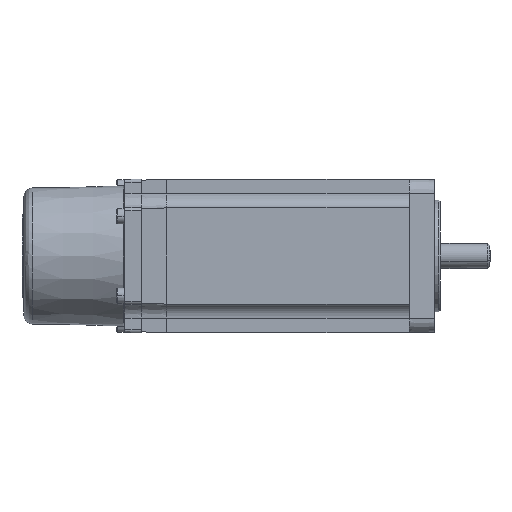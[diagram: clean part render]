
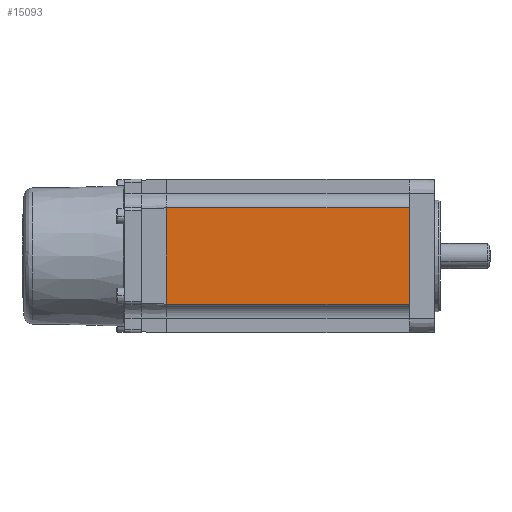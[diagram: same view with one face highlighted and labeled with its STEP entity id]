
A CAD part, front view. The second image highlights one B-rep face of the part: STEP entity #15093.
In plain terms, the highlighted planar face has unit normal (0, -1, 0) as drawn and (0, 1, 0) by its records, which use the part's own axes.
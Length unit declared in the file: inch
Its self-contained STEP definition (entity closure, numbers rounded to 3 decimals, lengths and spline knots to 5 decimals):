
#4738 = VERTEX_POINT ( 'NONE', #162156 ) ;
#7245 = VECTOR ( 'NONE', #147348, 39.37008 ) ;
#8697 = EDGE_CURVE ( 'NONE', #4738, #88647, #55848, .T. ) ;
#12446 = EDGE_LOOP ( 'NONE', ( #35174, #57296, #119959, #114343 ) ) ;
#14378 = DIRECTION ( 'NONE',  ( 0., -1., 0. ) ) ;
#15093 = ADVANCED_FACE ( 'NONE', ( #25220 ), #64618, .F. ) ;
#16913 = VERTEX_POINT ( 'NONE', #90573 ) ;
#25220 = FACE_OUTER_BOUND ( 'NONE', #12446, .T. ) ;
#28701 = CARTESIAN_POINT ( 'NONE',  ( 0.68007, 1.08268, -1.71654 ) ) ;
#35174 = ORIENTED_EDGE ( 'NONE', *, *, #47087, .F. ) ;
#47087 = EDGE_CURVE ( 'NONE', #16913, #4738, #133571, .T. ) ;
#50593 = DIRECTION ( 'NONE',  ( -1., 0., 0. ) ) ;
#55848 = LINE ( 'NONE', #147598, #122904 ) ;
#56537 = CARTESIAN_POINT ( 'NONE',  ( 0.68007, 1.08268, -1.71654 ) ) ;
#57296 = ORIENTED_EDGE ( 'NONE', *, *, #140866, .F. ) ;
#64618 = PLANE ( 'NONE',  #98411 ) ;
#71860 = CARTESIAN_POINT ( 'NONE',  ( -1.08268, 1.08268, -1.71654 ) ) ;
#72112 = DIRECTION ( 'NONE',  ( 0., 0., -1. ) ) ;
#88647 = VERTEX_POINT ( 'NONE', #96676 ) ;
#90004 = CARTESIAN_POINT ( 'NONE',  ( -1.08268, 1.08268, -1.71654 ) ) ;
#90573 = CARTESIAN_POINT ( 'NONE',  ( 0.68007, 1.08268, 1.71654 ) ) ;
#91571 = DIRECTION ( 'NONE',  ( 0., 0., 1. ) ) ;
#96676 = CARTESIAN_POINT ( 'NONE',  ( -0.68007, 1.08268, -1.71654 ) ) ;
#98411 = AXIS2_PLACEMENT_3D ( 'NONE', #90004, #14378, #102692 ) ;
#100240 = LINE ( 'NONE', #28701, #163246 ) ;
#102692 = DIRECTION ( 'NONE',  ( 0., 0., -1. ) ) ;
#104032 = LINE ( 'NONE', #71860, #7245 ) ;
#114343 = ORIENTED_EDGE ( 'NONE', *, *, #8697, .F. ) ;
#119959 = ORIENTED_EDGE ( 'NONE', *, *, #163606, .F. ) ;
#122904 = VECTOR ( 'NONE', #72112, 39.37008 ) ;
#129603 = VECTOR ( 'NONE', #50593, 39.37008 ) ;
#133571 = LINE ( 'NONE', #138860, #129603 ) ;
#138860 = CARTESIAN_POINT ( 'NONE',  ( 1.08268, 1.08268, 1.71654 ) ) ;
#140866 = EDGE_CURVE ( 'NONE', #147569, #16913, #100240, .T. ) ;
#147348 = DIRECTION ( 'NONE',  ( 1., 0., 0. ) ) ;
#147569 = VERTEX_POINT ( 'NONE', #56537 ) ;
#147598 = CARTESIAN_POINT ( 'NONE',  ( -0.68007, 1.08268, -1.71654 ) ) ;
#162156 = CARTESIAN_POINT ( 'NONE',  ( -0.68007, 1.08268, 1.71654 ) ) ;
#163246 = VECTOR ( 'NONE', #91571, 39.37008 ) ;
#163606 = EDGE_CURVE ( 'NONE', #88647, #147569, #104032, .T. ) ;
